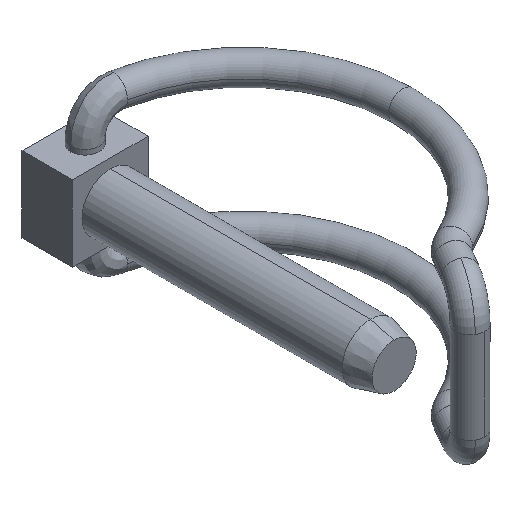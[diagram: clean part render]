
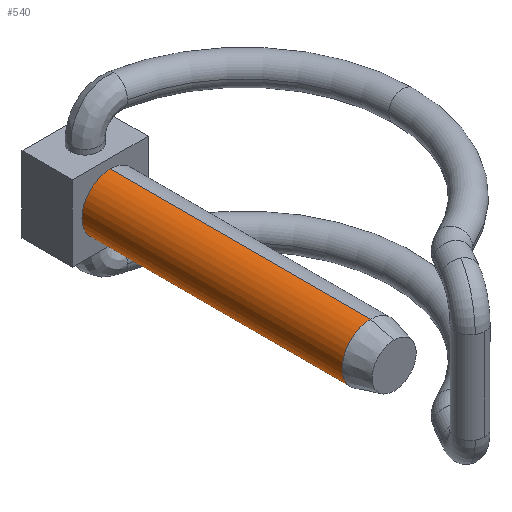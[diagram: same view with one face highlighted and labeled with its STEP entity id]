
A CAD part, isometric view. The second image highlights one B-rep face of the part: STEP entity #540.
In plain terms, the highlighted cylindrical face has radius 5 mm (diameter 10 mm), a partial arc.
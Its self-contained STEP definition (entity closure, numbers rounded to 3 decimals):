
#50 = VERTEX_POINT ( 'NONE', #1343 ) ;
#52 = CARTESIAN_POINT ( 'NONE',  ( 0., -50., 5. ) ) ;
#70 = AXIS2_PLACEMENT_3D ( 'NONE', #1054, #1745, #1620 ) ;
#134 = VERTEX_POINT ( 'NONE', #1348 ) ;
#139 = EDGE_LOOP ( 'NONE', ( #442, #506, #734, #1678 ) ) ;
#149 = DIRECTION ( 'NONE',  ( 0., 1., 0. ) ) ;
#177 = CARTESIAN_POINT ( 'NONE',  ( 0., -50., 0. ) ) ;
#213 = LINE ( 'NONE', #52, #1685 ) ;
#264 = CARTESIAN_POINT ( 'NONE',  ( 0., -50., -5. ) ) ;
#289 = DIRECTION ( 'NONE',  ( 0., 1., 0. ) ) ;
#314 = CYLINDRICAL_SURFACE ( 'NONE', #943, 5. ) ;
#442 = ORIENTED_EDGE ( 'NONE', *, *, #1767, .F. ) ;
#488 = DIRECTION ( 'NONE',  ( 0., 1., 0. ) ) ;
#506 = ORIENTED_EDGE ( 'NONE', *, *, #1450, .T. ) ;
#516 = VERTEX_POINT ( 'NONE', #1155 ) ;
#526 = CARTESIAN_POINT ( 'NONE',  ( 0., 0., 5. ) ) ;
#540 = ADVANCED_FACE ( 'NONE', ( #898 ), #314, .T. ) ;
#559 = LINE ( 'NONE', #264, #1432 ) ;
#614 = AXIS2_PLACEMENT_3D ( 'NONE', #1560, #1438, #1310 ) ;
#734 = ORIENTED_EDGE ( 'NONE', *, *, #1193, .T. ) ;
#898 = FACE_OUTER_BOUND ( 'NONE', #139, .T. ) ;
#943 = AXIS2_PLACEMENT_3D ( 'NONE', #177, #289, #1442 ) ;
#1054 = CARTESIAN_POINT ( 'NONE',  ( 0., 0., 0. ) ) ;
#1059 = CIRCLE ( 'NONE', #614, 5. ) ;
#1155 = CARTESIAN_POINT ( 'NONE',  ( 0., -45.853, -5. ) ) ;
#1193 = EDGE_CURVE ( 'NONE', #134, #1709, #213, .T. ) ;
#1203 = EDGE_CURVE ( 'NONE', #50, #1709, #1570, .T. ) ;
#1310 = DIRECTION ( 'NONE',  ( 0., 0., 1. ) ) ;
#1343 = CARTESIAN_POINT ( 'NONE',  ( 0., 0., -5. ) ) ;
#1348 = CARTESIAN_POINT ( 'NONE',  ( 0., -45.853, 5. ) ) ;
#1432 = VECTOR ( 'NONE', #149, 1000. ) ;
#1438 = DIRECTION ( 'NONE',  ( 0., 1., 0. ) ) ;
#1442 = DIRECTION ( 'NONE',  ( 0., 0., 1. ) ) ;
#1450 = EDGE_CURVE ( 'NONE', #516, #134, #1059, .T. ) ;
#1560 = CARTESIAN_POINT ( 'NONE',  ( 0., -45.853, 0. ) ) ;
#1570 = CIRCLE ( 'NONE', #70, 5. ) ;
#1620 = DIRECTION ( 'NONE',  ( 0., 0., 1. ) ) ;
#1678 = ORIENTED_EDGE ( 'NONE', *, *, #1203, .F. ) ;
#1685 = VECTOR ( 'NONE', #488, 1000. ) ;
#1709 = VERTEX_POINT ( 'NONE', #526 ) ;
#1745 = DIRECTION ( 'NONE',  ( 0., 1., 0. ) ) ;
#1767 = EDGE_CURVE ( 'NONE', #516, #50, #559, .T. ) ;
